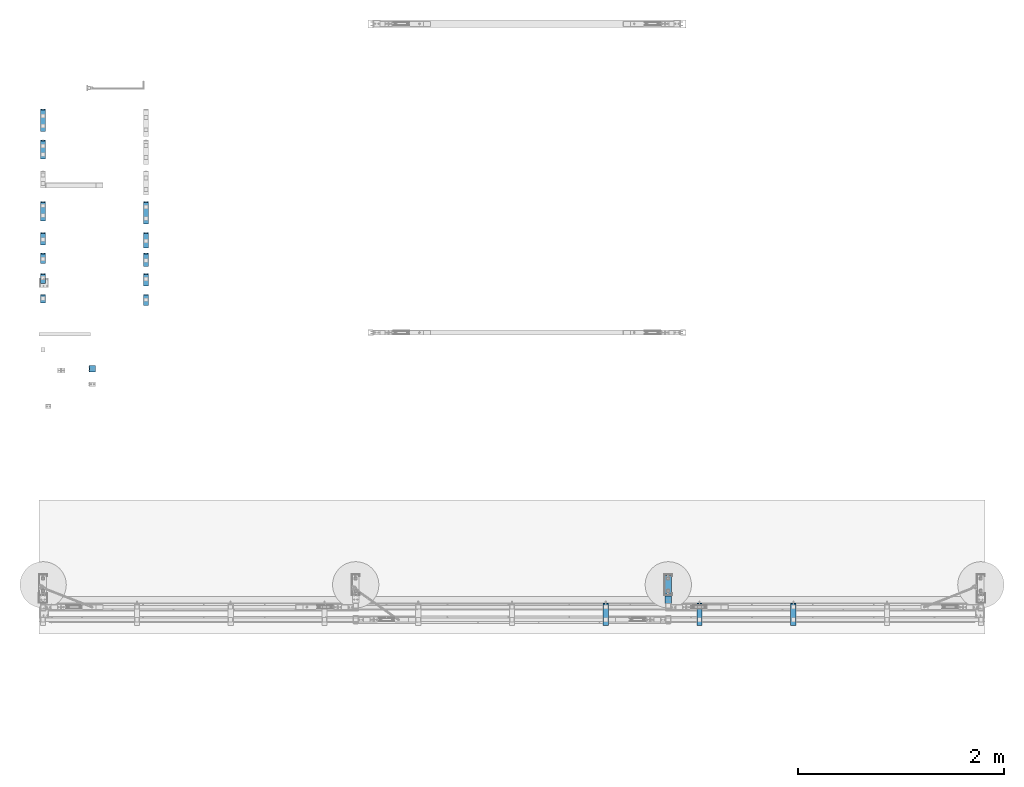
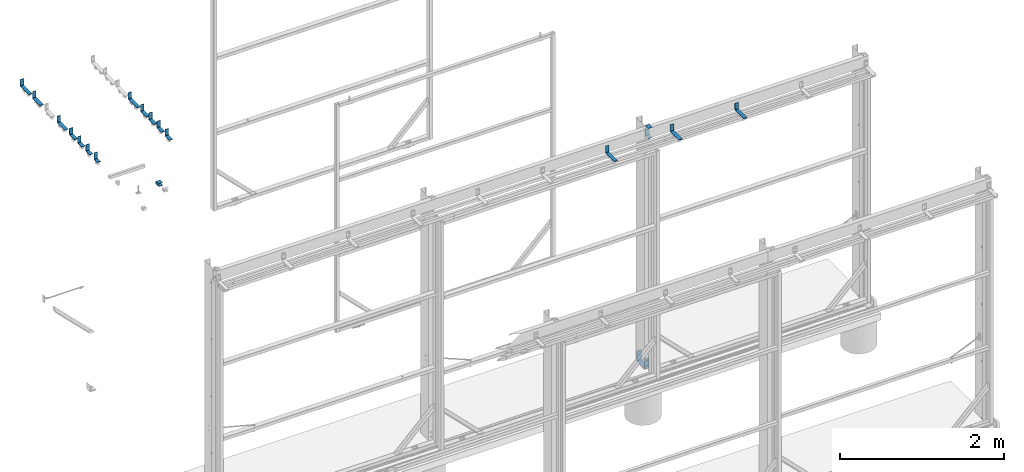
# One storey, part 82 of 91: 18 beams, 18 elements without a shape of their own.
"""IFC2X3 building model written with IfcOpenShell, lengths in millimetres."""

from ifc_helpers import new_model, si_unit, frame, origin_with_axes, place, context, subcontext, project, spatial, faceted_brep, material, type_object, element, aggregate, save


model = new_model("IFC2X3")

# Units and contexts
model_context = context("Model", 3, precision=1e-05, world=origin_with_axes())
body_context = subcontext(model_context, "Body", "Model", "MODEL_VIEW")
ifc_project = project(units=[si_unit("LENGTHUNIT", "METRE", prefix="MILLI"), si_unit("AREAUNIT", "SQUARE_METRE"), si_unit("VOLUMEUNIT", "CUBIC_METRE"), si_unit("MASSUNIT", "GRAM", prefix="KILO"), si_unit("TIMEUNIT", "SECOND"), si_unit("PLANEANGLEUNIT", "RADIAN"), si_unit("SOLIDANGLEUNIT", "STERADIAN"), si_unit("THERMODYNAMICTEMPERATUREUNIT", "DEGREE_CELSIUS"), si_unit("LUMINOUSINTENSITYUNIT", "LUMEN")], contexts=[model_context])

# Site, building, storey
site_placement = place(None, origin_with_axes())
site = spatial("IfcSite", under=ifc_project, at=site_placement, Name="Undefined", CompositionType="ELEMENT")
building_placement = place(site_placement, origin_with_axes())
building = spatial("IfcBuilding", under=site, at=building_placement, Name="Undefined", CompositionType="ELEMENT")
storey_placement = place(building_placement, origin_with_axes())
storey = spatial("IfcBuildingStorey", under=building, at=storey_placement, Name="Undefined", CompositionType="ELEMENT", Elevation=0.0)

# Assembly, beam
assembly_1_placement = place(storey_placement, origin_with_axes())
assembly_1 = element("IfcElementAssembly", 1, at=assembly_1_placement, inside=storey, Name="PLATE", AssemblyPlace="NOTDEFINED", PredefinedType="RIGID_FRAME")
ifc_material_1 = material(Name="STEEL/450")
beam_type_1 = type_object("IfcBeamType", Name="PLT3*65", PredefinedType="NOTDEFINED")
beam_1_placement = place(assembly_1_placement, frame((-116285.88, 90027.61, 3370.5), z_axis=(0.0, -1.0, 0.0), x_axis=(-1.0, 0.0, 0.0)))
beam_1 = element("IfcBeam", 2, at=beam_1_placement, type_object=beam_type_1, material=ifc_material_1, Name="PLATE", ObjectType="PLT3*65", context=body_context, shape_type="Brep", body=[
    faceted_brep([(0.0, 1.5, -32.5), (0.0, 1.5, 32.5), (56.0, 1.5, 32.5), (55.9999999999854, 1.5, -32.5), (0.0, -1.5, 32.5), (0.0, -1.5, -32.5), (56.0, -1.5, -32.5), (56.0, -1.5, 32.5), (59.0000000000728, 2.30384757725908, 32.5), (59.0000000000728, 2.30384757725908, -32.5), (60.5000000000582, -0.294228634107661, -32.5), (60.5000000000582, -0.294228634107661, 32.5), (63.794228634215, 2.99999999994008, -32.5), (63.794228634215, 2.99999999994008, 32.5), (61.1961524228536, 4.49999999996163, 32.5), (61.1961524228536, 4.49999999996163, -32.5), (65.0000000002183, 7.49999999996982, -32.5), (65.0000000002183, 7.49999999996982, 32.5), (62.0000000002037, 7.49999999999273, 32.5), (62.0, 7.5, -32.5), (62.0, 33.5, 32.5), (61.9999999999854, 33.4999999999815, -32.5), (65.0, 33.5, -32.5), (65.0, 33.5, 32.5), (61.1961524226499, 36.4999999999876, 32.5), (61.1961524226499, 36.4999999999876, -32.5), (63.7942286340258, 37.9999999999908, -32.5), (63.7942286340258, 37.9999999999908, 32.5), (60.4999999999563, 41.2942286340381, -32.5), (60.4999999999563, 41.2942286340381, 32.5), (58.9999999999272, 38.6961524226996, 32.5), (58.9999999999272, 38.6961524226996, -32.5), (55.9999999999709, 42.5000000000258, -32.5), (55.9999999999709, 42.5000000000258, 32.5), (55.9999999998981, 39.5000000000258, 32.5), (56.0, 39.5, -32.5), (0.0, 39.5, 32.5), (0.0, 39.5, -32.5), (0.0, 42.5, 32.5), (0.0, 42.5, -32.5)], [[[0, 1, 2, 3]], [[4, 5, 6, 7]], [[5, 4, 1, 0]], [[3, 2, 8, 9]], [[7, 6, 10, 11]], [[10, 12, 13, 11]], [[8, 14, 15, 9]], [[12, 16, 17, 13]], [[14, 18, 19, 15]], [[19, 18, 20, 21]], [[17, 16, 22, 23]], [[21, 20, 24, 25]], [[23, 22, 26, 27]], [[26, 28, 29, 27]], [[24, 30, 31, 25]], [[28, 32, 33, 29]], [[30, 34, 35, 31]], [[35, 34, 36, 37]], [[34, 30, 24, 20, 18, 14, 8, 2, 1, 4, 7, 11, 13, 17, 23, 27, 29, 33, 38, 36]], [[33, 32, 39, 38]], [[32, 28, 26, 22, 16, 12, 10, 6, 5, 0, 3, 9, 15, 19, 21, 25, 31, 35, 37, 39]], [[38, 39, 37, 36]]]),
])
aggregate(assembly_1, [beam_1])

assembly_2_placement = place(storey_placement, origin_with_axes())
assembly_2 = element("IfcElementAssembly", 3, at=assembly_2_placement, inside=storey, Name="SLIDING DOOR BRACKET", AssemblyPlace="NOTDEFINED", PredefinedType="RIGID_FRAME")
ifc_material_2 = material(Name="STEEL/250")
beam_type_2 = type_object("IfcBeamType", Name="FL6*50", PredefinedType="NOTDEFINED")
beam_2_placement = place(assembly_2_placement, frame((-115795.84, 91649.15, 3541.0), z_axis=(1.0, 0.0, 0.0), x_axis=(0.0, 0.0, -1.0)))
beam_2 = element("IfcBeam", 4, at=beam_2_placement, type_object=beam_type_2, material=ifc_material_2, Name="SLIDING DOOR BRACKET", ObjectType="FL6*50", context=body_context, shape_type="Brep", body=[
    faceted_brep([(0.0, 3.0, -25.0), (0.0, 3.0, 25.0), (88.0, 3.0, 25.0), (88.0000000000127, 3.00000000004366, -25.0), (0.0, -3.0, 25.0), (0.0, -3.0, -25.0), (88.0, -3.0, -25.0), (88.0, -3.0, 25.0), (93.9999999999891, 1.39230484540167, 25.0), (93.9999999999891, 1.39230484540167, -25.0), (90.9999999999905, -3.8038475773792, -25.0), (90.9999999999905, -3.8038475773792, 25.0), (93.1961524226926, -6.00000000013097, -25.0), (93.1961524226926, -6.00000000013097, 25.0), (98.3923048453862, -3.00000000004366, 25.0), (98.3923048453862, -3.00000000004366, -25.0), (93.9999999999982, -9.00000000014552, -25.0), (93.9999999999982, -9.00000000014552, 25.0), (100.000000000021, -9.00000000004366, 25.0), (100.0, -9.0, -25.0), (100.0, -215.0, 25.0), (100.0, -215.0, -25.0), (94.0, -215.0, 25.0), (94.0, -215.0, -25.0)], [[[0, 1, 2, 3]], [[4, 5, 6, 7]], [[5, 4, 1, 0]], [[3, 2, 8, 9]], [[7, 6, 10, 11]], [[10, 12, 13, 11]], [[8, 14, 15, 9]], [[12, 16, 17, 13]], [[14, 18, 19, 15]], [[19, 18, 20, 21]], [[18, 14, 8, 2, 1, 4, 7, 11, 13, 17, 22, 20]], [[17, 16, 23, 22]], [[16, 12, 10, 6, 5, 0, 3, 9, 15, 19, 21, 23]], [[22, 23, 21, 20]]]),
])
aggregate(assembly_2, [beam_2])

assembly_3_placement = place(storey_placement, origin_with_axes())
assembly_3 = element("IfcElementAssembly", 5, at=assembly_3_placement, inside=storey, Name="SLIDING DOOR BRACKET", AssemblyPlace="NOTDEFINED", PredefinedType="RIGID_FRAME")
beam_3_placement = place(assembly_3_placement, frame((-115795.84, 91349.15, 3541.0), z_axis=(1.0, 0.0, 0.0), x_axis=(0.0, 0.0, -1.0)))
beam_3 = element("IfcBeam", 6, at=beam_3_placement, type_object=beam_type_2, material=ifc_material_2, Name="SLIDING DOOR BRACKET", ObjectType="FL6*50", context=body_context, shape_type="Brep", body=[
    faceted_brep([(0.0, 3.0, -25.0), (0.0, 3.0, 25.0), (88.0, 3.0, 25.0), (88.0000000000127, 3.00000000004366, -25.0), (0.0, -3.0, 25.0), (0.0, -3.0, -25.0), (88.0, -3.0, -25.0), (88.0, -3.0, 25.0), (93.9999999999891, 1.39230484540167, 25.0), (93.9999999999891, 1.39230484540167, -25.0), (90.9999999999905, -3.8038475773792, -25.0), (90.9999999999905, -3.8038475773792, 25.0), (93.1961524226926, -6.00000000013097, -25.0), (93.1961524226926, -6.00000000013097, 25.0), (98.3923048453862, -3.00000000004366, 25.0), (98.3923048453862, -3.00000000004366, -25.0), (93.9999999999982, -9.00000000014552, -25.0), (93.9999999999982, -9.00000000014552, 25.0), (100.000000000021, -9.00000000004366, 25.0), (100.0, -9.0, -25.0), (100.0, -145.0, 25.0), (100.0, -145.0, -25.0), (94.0, -145.0, 25.0), (94.0, -145.0, -25.0)], [[[0, 1, 2, 3]], [[4, 5, 6, 7]], [[5, 4, 1, 0]], [[3, 2, 8, 9]], [[7, 6, 10, 11]], [[10, 12, 13, 11]], [[8, 14, 15, 9]], [[12, 16, 17, 13]], [[14, 18, 19, 15]], [[19, 18, 20, 21]], [[18, 14, 8, 2, 1, 4, 7, 11, 13, 17, 22, 20]], [[17, 16, 23, 22]], [[16, 12, 10, 6, 5, 0, 3, 9, 15, 19, 21, 23]], [[22, 23, 21, 20]]]),
])
aggregate(assembly_3, [beam_3])

assembly_4_placement = place(storey_placement, origin_with_axes())
assembly_4 = element("IfcElementAssembly", 7, at=assembly_4_placement, inside=storey, Name="SLIDING DOOR BRACKET", AssemblyPlace="NOTDEFINED", PredefinedType="RIGID_FRAME")
beam_4_placement = place(assembly_4_placement, frame((-115795.84, 91149.15, 3541.0), z_axis=(1.0, 0.0, 0.0), x_axis=(0.0, 0.0, -1.0)))
beam_4 = element("IfcBeam", 8, at=beam_4_placement, type_object=beam_type_2, material=ifc_material_2, Name="SLIDING DOOR BRACKET", ObjectType="FL6*50", context=body_context, shape_type="Brep", body=[
    faceted_brep([(0.0, 3.0, -25.0), (0.0, 3.0, 25.0), (88.0, 3.0, 25.0), (88.0000000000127, 3.00000000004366, -25.0), (0.0, -3.0, 25.0), (0.0, -3.0, -25.0), (88.0, -3.0, -25.0), (88.0, -3.0, 25.0), (93.9999999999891, 1.39230484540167, 25.0), (93.9999999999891, 1.39230484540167, -25.0), (90.9999999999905, -3.8038475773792, -25.0), (90.9999999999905, -3.8038475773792, 25.0), (93.1961524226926, -6.00000000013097, -25.0), (93.1961524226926, -6.00000000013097, 25.0), (98.3923048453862, -3.00000000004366, 25.0), (98.3923048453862, -3.00000000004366, -25.0), (93.9999999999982, -9.00000000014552, -25.0), (93.9999999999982, -9.00000000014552, 25.0), (100.000000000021, -9.00000000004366, 25.0), (100.0, -9.0, -25.0), (100.0, -125.0, 25.0), (100.0, -125.0, -25.0), (94.0, -125.0, 25.0), (94.0, -125.0, -25.0)], [[[0, 1, 2, 3]], [[4, 5, 6, 7]], [[5, 4, 1, 0]], [[3, 2, 8, 9]], [[7, 6, 10, 11]], [[10, 12, 13, 11]], [[8, 14, 15, 9]], [[12, 16, 17, 13]], [[14, 18, 19, 15]], [[19, 18, 20, 21]], [[18, 14, 8, 2, 1, 4, 7, 11, 13, 17, 22, 20]], [[17, 16, 23, 22]], [[16, 12, 10, 6, 5, 0, 3, 9, 15, 19, 21, 23]], [[22, 23, 21, 20]]]),
])
aggregate(assembly_4, [beam_4])

assembly_5_placement = place(storey_placement, origin_with_axes())
assembly_5 = element("IfcElementAssembly", 9, at=assembly_5_placement, inside=storey, Name="SLIDING DOOR BRACKET", AssemblyPlace="NOTDEFINED", PredefinedType="RIGID_FRAME")
beam_5_placement = place(assembly_5_placement, frame((-115795.84, 90949.15, 3541.0), z_axis=(1.0, 0.0, 0.0), x_axis=(0.0, 0.0, -1.0)))
beam_5 = element("IfcBeam", 10, at=beam_5_placement, type_object=beam_type_2, material=ifc_material_2, Name="SLIDING DOOR BRACKET", ObjectType="FL6*50", context=body_context, shape_type="Brep", body=[
    faceted_brep([(0.0, 3.0, -25.0), (0.0, 3.0, 25.0), (88.0, 3.0, 25.0), (88.0000000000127, 3.00000000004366, -25.0), (0.0, -3.0, 25.0), (0.0, -3.0, -25.0), (88.0, -3.0, -25.0), (88.0, -3.0, 25.0), (93.9999999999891, 1.39230484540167, 25.0), (93.9999999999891, 1.39230484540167, -25.0), (90.9999999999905, -3.8038475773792, -25.0), (90.9999999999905, -3.8038475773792, 25.0), (93.1961524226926, -6.00000000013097, -25.0), (93.1961524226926, -6.00000000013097, 25.0), (98.3923048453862, -3.00000000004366, 25.0), (98.3923048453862, -3.00000000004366, -25.0), (93.9999999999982, -9.00000000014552, -25.0), (93.9999999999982, -9.00000000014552, 25.0), (100.000000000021, -9.00000000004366, 25.0), (100.0, -9.0, -25.0), (100.0, -116.0, 25.0), (100.0, -116.0, -25.0), (94.0, -116.0, 25.0), (94.0, -116.0, -25.0)], [[[0, 1, 2, 3]], [[4, 5, 6, 7]], [[5, 4, 1, 0]], [[3, 2, 8, 9]], [[7, 6, 10, 11]], [[10, 12, 13, 11]], [[8, 14, 15, 9]], [[12, 16, 17, 13]], [[14, 18, 19, 15]], [[19, 18, 20, 21]], [[18, 14, 8, 2, 1, 4, 7, 11, 13, 17, 22, 20]], [[17, 16, 23, 22]], [[16, 12, 10, 6, 5, 0, 3, 9, 15, 19, 21, 23]], [[22, 23, 21, 20]]]),
])
aggregate(assembly_5, [beam_5])

assembly_6_placement = place(storey_placement, origin_with_axes())
assembly_6 = element("IfcElementAssembly", 11, at=assembly_6_placement, inside=storey, Name="SLIDING DOOR BRACKET", AssemblyPlace="NOTDEFINED", PredefinedType="RIGID_FRAME")
beam_6_placement = place(assembly_6_placement, frame((-115795.84, 90749.15, 3541.0), z_axis=(1.0, 0.0, 0.0), x_axis=(0.0, 0.0, -1.0)))
beam_6 = element("IfcBeam", 12, at=beam_6_placement, type_object=beam_type_2, material=ifc_material_2, Name="SLIDING DOOR BRACKET", ObjectType="FL6*50", context=body_context, shape_type="Brep", body=[
    faceted_brep([(0.0, 3.0, -25.0), (0.0, 3.0, 25.0), (88.0, 3.0, 25.0), (88.0000000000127, 3.00000000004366, -25.0), (0.0, -3.0, 25.0), (0.0, -3.0, -25.0), (88.0, -3.0, -25.0), (88.0, -3.0, 25.0), (93.9999999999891, 1.39230484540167, 25.0), (93.9999999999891, 1.39230484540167, -25.0), (90.9999999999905, -3.8038475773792, -25.0), (90.9999999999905, -3.8038475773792, 25.0), (93.1961524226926, -6.00000000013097, -25.0), (93.1961524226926, -6.00000000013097, 25.0), (98.3923048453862, -3.00000000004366, 25.0), (98.3923048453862, -3.00000000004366, -25.0), (93.9999999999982, -9.00000000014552, -25.0), (93.9999999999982, -9.00000000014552, 25.0), (100.000000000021, -9.00000000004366, 25.0), (100.0, -9.0, -25.0), (100.0, -106.0, 25.0), (100.0, -106.0, -25.0), (94.0, -106.0, 25.0), (94.0, -106.0, -25.0)], [[[0, 1, 2, 3]], [[4, 5, 6, 7]], [[5, 4, 1, 0]], [[3, 2, 8, 9]], [[7, 6, 10, 11]], [[10, 12, 13, 11]], [[8, 14, 15, 9]], [[12, 16, 17, 13]], [[14, 18, 19, 15]], [[19, 18, 20, 21]], [[18, 14, 8, 2, 1, 4, 7, 11, 13, 17, 22, 20]], [[17, 16, 23, 22]], [[16, 12, 10, 6, 5, 0, 3, 9, 15, 19, 21, 23]], [[22, 23, 21, 20]]]),
])
aggregate(assembly_6, [beam_6])

assembly_7_placement = place(storey_placement, origin_with_axes())
assembly_7 = element("IfcElementAssembly", 13, at=assembly_7_placement, inside=storey, Name="SLIDING DOOR BRACKET", AssemblyPlace="NOTDEFINED", PredefinedType="RIGID_FRAME")
beam_7_placement = place(assembly_7_placement, frame((-116795.84, 92549.15, 3541.0), z_axis=(1.0, 0.0, 0.0), x_axis=(0.0, 0.0, -1.0)))
beam_7 = element("IfcBeam", 14, at=beam_7_placement, type_object=beam_type_2, material=ifc_material_2, Name="SLIDING DOOR BRACKET", ObjectType="FL6*50", context=body_context, shape_type="Brep", body=[
    faceted_brep([(0.0, 3.0, -25.0), (0.0, 3.0, 25.0), (88.0, 3.0, 25.0), (88.0000000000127, 3.00000000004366, -25.0), (0.0, -3.0, 25.0), (0.0, -3.0, -25.0), (88.0, -3.0, -25.0), (88.0, -3.0, 25.0), (93.9999999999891, 1.39230484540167, 25.0), (93.9999999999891, 1.39230484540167, -25.0), (90.9999999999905, -3.8038475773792, -25.0), (90.9999999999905, -3.8038475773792, 25.0), (93.1961524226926, -6.00000000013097, -25.0), (93.1961524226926, -6.00000000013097, 25.0), (98.3923048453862, -3.00000000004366, 25.0), (98.3923048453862, -3.00000000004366, -25.0), (93.9999999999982, -9.00000000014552, -25.0), (93.9999999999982, -9.00000000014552, 25.0), (100.000000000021, -9.00000000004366, 25.0), (100.0, -9.0, -25.0), (100.0, -214.0, 25.0), (100.0, -214.0, -25.0), (94.0, -214.0, 25.0), (94.0, -214.0, -25.0)], [[[0, 1, 2, 3]], [[4, 5, 6, 7]], [[5, 4, 1, 0]], [[3, 2, 8, 9]], [[7, 6, 10, 11]], [[10, 12, 13, 11]], [[8, 14, 15, 9]], [[12, 16, 17, 13]], [[14, 18, 19, 15]], [[19, 18, 20, 21]], [[18, 14, 8, 2, 1, 4, 7, 11, 13, 17, 22, 20]], [[17, 16, 23, 22]], [[16, 12, 10, 6, 5, 0, 3, 9, 15, 19, 21, 23]], [[22, 23, 21, 20]]]),
])
aggregate(assembly_7, [beam_7])

assembly_8_placement = place(storey_placement, origin_with_axes())
assembly_8 = element("IfcElementAssembly", 15, at=assembly_8_placement, inside=storey, Name="SLIDING DOOR BRACKET", AssemblyPlace="NOTDEFINED", PredefinedType="RIGID_FRAME")
beam_8_placement = place(assembly_8_placement, frame((-116795.84, 92249.15, 3541.0), z_axis=(1.0, 0.0, 0.0), x_axis=(0.0, 0.0, -1.0)))
beam_8 = element("IfcBeam", 16, at=beam_8_placement, type_object=beam_type_2, material=ifc_material_2, Name="SLIDING DOOR BRACKET", ObjectType="FL6*50", context=body_context, shape_type="Brep", body=[
    faceted_brep([(0.0, 3.0, -25.0), (0.0, 3.0, 25.0), (88.0, 3.0, 25.0), (88.0000000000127, 3.00000000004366, -25.0), (0.0, -3.0, 25.0), (0.0, -3.0, -25.0), (88.0, -3.0, -25.0), (88.0, -3.0, 25.0), (93.9999999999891, 1.39230484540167, 25.0), (93.9999999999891, 1.39230484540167, -25.0), (90.9999999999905, -3.8038475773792, -25.0), (90.9999999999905, -3.8038475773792, 25.0), (93.1961524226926, -6.00000000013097, -25.0), (93.1961524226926, -6.00000000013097, 25.0), (98.3923048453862, -3.00000000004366, 25.0), (98.3923048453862, -3.00000000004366, -25.0), (93.9999999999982, -9.00000000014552, -25.0), (93.9999999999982, -9.00000000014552, 25.0), (100.000000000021, -9.00000000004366, 25.0), (100.0, -9.0, -25.0), (100.0, -184.0, 25.0), (100.0, -184.0, -25.0), (94.0, -184.0, 25.0), (94.0, -184.0, -25.0)], [[[0, 1, 2, 3]], [[4, 5, 6, 7]], [[5, 4, 1, 0]], [[3, 2, 8, 9]], [[7, 6, 10, 11]], [[10, 12, 13, 11]], [[8, 14, 15, 9]], [[12, 16, 17, 13]], [[14, 18, 19, 15]], [[19, 18, 20, 21]], [[18, 14, 8, 2, 1, 4, 7, 11, 13, 17, 22, 20]], [[17, 16, 23, 22]], [[16, 12, 10, 6, 5, 0, 3, 9, 15, 19, 21, 23]], [[22, 23, 21, 20]]]),
])
aggregate(assembly_8, [beam_8])

assembly_9_placement = place(storey_placement, origin_with_axes())
assembly_9 = element("IfcElementAssembly", 17, at=assembly_9_placement, inside=storey, Name="SLIDING DOOR BRACKET", AssemblyPlace="NOTDEFINED", PredefinedType="RIGID_FRAME")
beam_9_placement = place(assembly_9_placement, frame((-116795.84, 91649.15, 3541.0), z_axis=(1.0, 0.0, 0.0), x_axis=(0.0, 0.0, -1.0)))
beam_9 = element("IfcBeam", 18, at=beam_9_placement, type_object=beam_type_2, material=ifc_material_2, Name="SLIDING DOOR BRACKET", ObjectType="FL6*50", context=body_context, shape_type="Brep", body=[
    faceted_brep([(0.0, 3.0, -25.0), (0.0, 3.0, 25.0), (88.0, 3.0, 25.0), (88.0000000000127, 3.00000000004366, -25.0), (0.0, -3.0, 25.0), (0.0, -3.0, -25.0), (88.0, -3.0, -25.0), (88.0, -3.0, 25.0), (93.9999999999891, 1.39230484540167, 25.0), (93.9999999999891, 1.39230484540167, -25.0), (90.9999999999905, -3.8038475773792, -25.0), (90.9999999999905, -3.8038475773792, 25.0), (93.1961524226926, -6.00000000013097, -25.0), (93.1961524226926, -6.00000000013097, 25.0), (98.3923048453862, -3.00000000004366, 25.0), (98.3923048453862, -3.00000000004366, -25.0), (93.9999999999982, -9.00000000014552, -25.0), (93.9999999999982, -9.00000000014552, 25.0), (100.000000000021, -9.00000000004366, 25.0), (100.0, -9.0, -25.0), (100.0, -185.0, 25.0), (100.0, -185.0, -25.0), (94.0, -185.0, 25.0), (94.0, -185.0, -25.0)], [[[0, 1, 2, 3]], [[4, 5, 6, 7]], [[5, 4, 1, 0]], [[3, 2, 8, 9]], [[7, 6, 10, 11]], [[10, 12, 13, 11]], [[8, 14, 15, 9]], [[12, 16, 17, 13]], [[14, 18, 19, 15]], [[19, 18, 20, 21]], [[18, 14, 8, 2, 1, 4, 7, 11, 13, 17, 22, 20]], [[17, 16, 23, 22]], [[16, 12, 10, 6, 5, 0, 3, 9, 15, 19, 21, 23]], [[22, 23, 21, 20]]]),
])
aggregate(assembly_9, [beam_9])

assembly_10_placement = place(storey_placement, origin_with_axes())
assembly_10 = element("IfcElementAssembly", 19, at=assembly_10_placement, inside=storey, Name="SLIDING DOOR BRACKET", AssemblyPlace="NOTDEFINED", PredefinedType="RIGID_FRAME")
beam_10_placement = place(assembly_10_placement, frame((-116795.84, 91349.15, 3541.0), z_axis=(1.0, 0.0, 0.0), x_axis=(0.0, 0.0, -1.0)))
beam_10 = element("IfcBeam", 20, at=beam_10_placement, type_object=beam_type_2, material=ifc_material_2, Name="SLIDING DOOR BRACKET", ObjectType="FL6*50", context=body_context, shape_type="Brep", body=[
    faceted_brep([(0.0, 3.0, -25.0), (0.0, 3.0, 25.0), (88.0, 3.0, 25.0), (88.0000000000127, 3.00000000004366, -25.0), (0.0, -3.0, 25.0), (0.0, -3.0, -25.0), (88.0, -3.0, -25.0), (88.0, -3.0, 25.0), (93.9999999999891, 1.39230484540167, 25.0), (93.9999999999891, 1.39230484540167, -25.0), (90.9999999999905, -3.8038475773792, -25.0), (90.9999999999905, -3.8038475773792, 25.0), (93.1961524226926, -6.00000000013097, -25.0), (93.1961524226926, -6.00000000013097, 25.0), (98.3923048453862, -3.00000000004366, 25.0), (98.3923048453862, -3.00000000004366, -25.0), (93.9999999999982, -9.00000000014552, -25.0), (93.9999999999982, -9.00000000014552, 25.0), (100.000000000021, -9.00000000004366, 25.0), (100.0, -9.0, -25.0), (100.0, -120.0, 25.0), (100.0, -120.0, -25.0), (94.0, -120.0, 25.0), (94.0, -120.0, -25.0)], [[[0, 1, 2, 3]], [[4, 5, 6, 7]], [[5, 4, 1, 0]], [[3, 2, 8, 9]], [[7, 6, 10, 11]], [[10, 12, 13, 11]], [[8, 14, 15, 9]], [[12, 16, 17, 13]], [[14, 18, 19, 15]], [[19, 18, 20, 21]], [[18, 14, 8, 2, 1, 4, 7, 11, 13, 17, 22, 20]], [[17, 16, 23, 22]], [[16, 12, 10, 6, 5, 0, 3, 9, 15, 19, 21, 23]], [[22, 23, 21, 20]]]),
])
aggregate(assembly_10, [beam_10])

assembly_11_placement = place(storey_placement, origin_with_axes())
assembly_11 = element("IfcElementAssembly", 21, at=assembly_11_placement, inside=storey, Name="SLIDING DOOR BRACKET", AssemblyPlace="NOTDEFINED", PredefinedType="RIGID_FRAME")
beam_11_placement = place(assembly_11_placement, frame((-116795.84, 91149.15, 3541.0), z_axis=(1.0, 0.0, 0.0), x_axis=(0.0, 0.0, -1.0)))
beam_11 = element("IfcBeam", 22, at=beam_11_placement, type_object=beam_type_2, material=ifc_material_2, Name="SLIDING DOOR BRACKET", ObjectType="FL6*50", context=body_context, shape_type="Brep", body=[
    faceted_brep([(0.0, 3.0, -25.0), (0.0, 3.0, 25.0), (88.0, 3.0, 25.0), (88.0000000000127, 3.00000000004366, -25.0), (0.0, -3.0, 25.0), (0.0, -3.0, -25.0), (88.0, -3.0, -25.0), (88.0, -3.0, 25.0), (93.9999999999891, 1.39230484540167, 25.0), (93.9999999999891, 1.39230484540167, -25.0), (90.9999999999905, -3.8038475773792, -25.0), (90.9999999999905, -3.8038475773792, 25.0), (93.1961524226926, -6.00000000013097, -25.0), (93.1961524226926, -6.00000000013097, 25.0), (98.3923048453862, -3.00000000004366, 25.0), (98.3923048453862, -3.00000000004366, -25.0), (93.9999999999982, -9.00000000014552, -25.0), (93.9999999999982, -9.00000000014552, 25.0), (100.000000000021, -9.00000000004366, 25.0), (100.0, -9.0, -25.0), (100.0, -100.0, 25.0), (100.0, -100.0, -25.0), (94.0, -100.0, 25.0), (94.0, -100.0, -25.0)], [[[0, 1, 2, 3]], [[4, 5, 6, 7]], [[5, 4, 1, 0]], [[3, 2, 8, 9]], [[7, 6, 10, 11]], [[10, 12, 13, 11]], [[8, 14, 15, 9]], [[12, 16, 17, 13]], [[14, 18, 19, 15]], [[19, 18, 20, 21]], [[18, 14, 8, 2, 1, 4, 7, 11, 13, 17, 22, 20]], [[17, 16, 23, 22]], [[16, 12, 10, 6, 5, 0, 3, 9, 15, 19, 21, 23]], [[22, 23, 21, 20]]]),
])
aggregate(assembly_11, [beam_11])

assembly_12_placement = place(storey_placement, origin_with_axes())
assembly_12 = element("IfcElementAssembly", 23, at=assembly_12_placement, inside=storey, Name="SLIDING DOOR BRACKET", AssemblyPlace="NOTDEFINED", PredefinedType="RIGID_FRAME")
beam_12_placement = place(assembly_12_placement, frame((-116795.84, 90949.15, 3541.0), z_axis=(1.0, 0.0, 0.0), x_axis=(0.0, 0.0, -1.0)))
beam_12 = element("IfcBeam", 24, at=beam_12_placement, type_object=beam_type_2, material=ifc_material_2, Name="SLIDING DOOR BRACKET", ObjectType="FL6*50", context=body_context, shape_type="Brep", body=[
    faceted_brep([(0.0, 3.0, -25.0), (0.0, 3.0, 25.0), (88.0, 3.0, 25.0), (88.0000000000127, 3.00000000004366, -25.0), (0.0, -3.0, 25.0), (0.0, -3.0, -25.0), (88.0, -3.0, -25.0), (88.0, -3.0, 25.0), (93.9999999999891, 1.39230484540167, 25.0), (93.9999999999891, 1.39230484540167, -25.0), (90.9999999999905, -3.8038475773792, -25.0), (90.9999999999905, -3.8038475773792, 25.0), (93.1961524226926, -6.00000000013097, -25.0), (93.1961524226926, -6.00000000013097, 25.0), (98.3923048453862, -3.00000000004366, 25.0), (98.3923048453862, -3.00000000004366, -25.0), (93.9999999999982, -9.00000000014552, -25.0), (93.9999999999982, -9.00000000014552, 25.0), (100.000000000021, -9.00000000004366, 25.0), (100.0, -9.0, -25.0), (100.0, -91.0, 25.0), (100.0, -91.0, -25.0), (94.0, -91.0, 25.0), (94.0, -91.0, -25.0)], [[[0, 1, 2, 3]], [[4, 5, 6, 7]], [[5, 4, 1, 0]], [[3, 2, 8, 9]], [[7, 6, 10, 11]], [[10, 12, 13, 11]], [[8, 14, 15, 9]], [[12, 16, 17, 13]], [[14, 18, 19, 15]], [[19, 18, 20, 21]], [[18, 14, 8, 2, 1, 4, 7, 11, 13, 17, 22, 20]], [[17, 16, 23, 22]], [[16, 12, 10, 6, 5, 0, 3, 9, 15, 19, 21, 23]], [[22, 23, 21, 20]]]),
])
aggregate(assembly_12, [beam_12])

assembly_13_placement = place(storey_placement, origin_with_axes())
assembly_13 = element("IfcElementAssembly", 25, at=assembly_13_placement, inside=storey, Name="SLIDING DOOR BRACKET", AssemblyPlace="NOTDEFINED", PredefinedType="RIGID_FRAME")
beam_13_placement = place(assembly_13_placement, frame((-116795.84, 90749.15, 3541.0), z_axis=(1.0, 0.0, 0.0), x_axis=(0.0, 0.0, -1.0)))
beam_13 = element("IfcBeam", 26, at=beam_13_placement, type_object=beam_type_2, material=ifc_material_2, Name="SLIDING DOOR BRACKET", ObjectType="FL6*50", context=body_context, shape_type="Brep", body=[
    faceted_brep([(0.0, 3.0, -25.0), (0.0, 3.0, 25.0), (88.0, 3.0, 25.0), (88.0000000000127, 3.00000000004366, -25.0), (0.0, -3.0, 25.0), (0.0, -3.0, -25.0), (88.0, -3.0, -25.0), (88.0, -3.0, 25.0), (93.9999999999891, 1.39230484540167, 25.0), (93.9999999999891, 1.39230484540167, -25.0), (90.9999999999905, -3.8038475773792, -25.0), (90.9999999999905, -3.8038475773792, 25.0), (93.1961524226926, -6.00000000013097, -25.0), (93.1961524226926, -6.00000000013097, 25.0), (98.3923048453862, -3.00000000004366, 25.0), (98.3923048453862, -3.00000000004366, -25.0), (93.9999999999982, -9.00000000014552, -25.0), (93.9999999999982, -9.00000000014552, 25.0), (100.000000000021, -9.00000000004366, 25.0), (100.0, -9.0, -25.0), (100.0, -81.0, 25.0), (100.0, -81.0, -25.0), (94.0, -81.0, 25.0), (94.0, -81.0, -25.0)], [[[0, 1, 2, 3]], [[4, 5, 6, 7]], [[5, 4, 1, 0]], [[3, 2, 8, 9]], [[7, 6, 10, 11]], [[10, 12, 13, 11]], [[8, 14, 15, 9]], [[12, 16, 17, 13]], [[14, 18, 19, 15]], [[19, 18, 20, 21]], [[18, 14, 8, 2, 1, 4, 7, 11, 13, 17, 22, 20]], [[17, 16, 23, 22]], [[16, 12, 10, 6, 5, 0, 3, 9, 15, 19, 21, 23]], [[22, 23, 21, 20]]]),
])
aggregate(assembly_13, [beam_13])

assembly_14_placement = place(storey_placement, origin_with_axes())
assembly_14 = element("IfcElementAssembly", 27, at=assembly_14_placement, inside=storey, Name="DOOR BRACKET", AssemblyPlace="NOTDEFINED", PredefinedType="RIGID_FRAME")
beam_14_placement = place(assembly_14_placement, frame((-109505.84, 87749.15, 3544.0), z_axis=(1.0, 0.0, 0.0), x_axis=(0.0, 0.0, -1.0)))
beam_14 = element("IfcBeam", 28, at=beam_14_placement, type_object=beam_type_2, material=ifc_material_2, Name="DOOR BRACKET", ObjectType="FL6*50", context=body_context, shape_type="Brep", body=[
    faceted_brep([(0.0, 3.0, -25.0), (0.0, 3.0, 25.0), (88.0, 3.0, 25.0), (88.0000000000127, 3.00000000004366, -25.0), (0.0, -3.0, 25.0), (0.0, -3.0, -25.0), (88.0, -3.0, -25.0), (88.0, -3.0, 25.0), (93.9999999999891, 1.39230484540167, 25.0), (93.9999999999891, 1.39230484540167, -25.0), (90.9999999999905, -3.8038475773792, -25.0), (90.9999999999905, -3.8038475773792, 25.0), (93.1961524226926, -6.00000000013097, -25.0), (93.1961524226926, -6.00000000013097, 25.0), (98.3923048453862, -3.00000000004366, 25.0), (98.3923048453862, -3.00000000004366, -25.0), (93.9999999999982, -9.00000000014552, -25.0), (93.9999999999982, -9.00000000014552, 25.0), (100.000000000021, -9.00000000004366, 25.0), (100.0, -9.0, -25.0), (100.0, -215.0, 25.0), (100.0, -215.0, -25.0), (94.0, -215.0, 25.0), (94.0, -215.0, -25.0)], [[[0, 1, 2, 3]], [[4, 5, 6, 7]], [[5, 4, 1, 0]], [[3, 2, 8, 9]], [[7, 6, 10, 11]], [[10, 12, 13, 11]], [[8, 14, 15, 9]], [[12, 16, 17, 13]], [[14, 18, 19, 15]], [[19, 18, 20, 21]], [[18, 14, 8, 2, 1, 4, 7, 11, 13, 17, 22, 20]], [[17, 16, 23, 22]], [[16, 12, 10, 6, 5, 0, 3, 9, 15, 19, 21, 23]], [[22, 23, 21, 20]]]),
])
aggregate(assembly_14, [beam_14])

assembly_15_placement = place(storey_placement, origin_with_axes())
assembly_15 = element("IfcElementAssembly", 29, at=assembly_15_placement, inside=storey, Name="DOOR BRACKET", AssemblyPlace="NOTDEFINED", PredefinedType="RIGID_FRAME")
beam_15_placement = place(assembly_15_placement, frame((-110417.09, 87749.15, 3544.0), z_axis=(1.0, 0.0, 0.0), x_axis=(0.0, 0.0, -1.0)))
beam_15 = element("IfcBeam", 30, at=beam_15_placement, type_object=beam_type_2, material=ifc_material_2, Name="DOOR BRACKET", ObjectType="FL6*50", context=body_context, shape_type="Brep", body=[
    faceted_brep([(0.0, 3.0, -25.0), (0.0, 3.0, 25.0), (88.0, 3.0, 25.0), (88.0000000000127, 3.00000000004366, -25.0), (0.0, -3.0, 25.0), (0.0, -3.0, -25.0), (88.0, -3.0, -25.0), (88.0, -3.0, 25.0), (93.9999999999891, 1.39230484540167, 25.0), (93.9999999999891, 1.39230484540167, -25.0), (90.9999999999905, -3.8038475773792, -25.0), (90.9999999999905, -3.8038475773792, 25.0), (93.1961524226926, -6.00000000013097, -25.0), (93.1961524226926, -6.00000000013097, 25.0), (98.3923048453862, -3.00000000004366, 25.0), (98.3923048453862, -3.00000000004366, -25.0), (93.9999999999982, -9.00000000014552, -25.0), (93.9999999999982, -9.00000000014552, 25.0), (100.000000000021, -9.00000000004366, 25.0), (100.0, -9.0, -25.0), (100.0, -215.0, 25.0), (100.0, -215.0, -25.0), (94.0, -215.0, 25.0), (94.0, -215.0, -25.0)], [[[0, 1, 2, 3]], [[4, 5, 6, 7]], [[5, 4, 1, 0]], [[3, 2, 8, 9]], [[7, 6, 10, 11]], [[10, 12, 13, 11]], [[8, 14, 15, 9]], [[12, 16, 17, 13]], [[14, 18, 19, 15]], [[19, 18, 20, 21]], [[18, 14, 8, 2, 1, 4, 7, 11, 13, 17, 22, 20]], [[17, 16, 23, 22]], [[16, 12, 10, 6, 5, 0, 3, 9, 15, 19, 21, 23]], [[22, 23, 21, 20]]]),
])
aggregate(assembly_15, [beam_15])

assembly_16_placement = place(storey_placement, origin_with_axes())
assembly_16 = element("IfcElementAssembly", 31, at=assembly_16_placement, inside=storey, Name="DOOR BRACKET", AssemblyPlace="NOTDEFINED", PredefinedType="RIGID_FRAME")
beam_16_placement = place(assembly_16_placement, frame((-111328.34, 87749.15, 3544.0), z_axis=(1.0, 0.0, 0.0), x_axis=(0.0, 0.0, -1.0)))
beam_16 = element("IfcBeam", 32, at=beam_16_placement, type_object=beam_type_2, material=ifc_material_2, Name="DOOR BRACKET", ObjectType="FL6*50", context=body_context, shape_type="Brep", body=[
    faceted_brep([(0.0, 3.0, -25.0), (0.0, 3.0, 25.0), (88.0, 3.0, 25.0), (88.0000000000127, 3.00000000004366, -25.0), (0.0, -3.0, 25.0), (0.0, -3.0, -25.0), (88.0, -3.0, -25.0), (88.0, -3.0, 25.0), (93.9999999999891, 1.39230484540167, 25.0), (93.9999999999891, 1.39230484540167, -25.0), (90.9999999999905, -3.8038475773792, -25.0), (90.9999999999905, -3.8038475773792, 25.0), (93.1961524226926, -6.00000000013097, -25.0), (93.1961524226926, -6.00000000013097, 25.0), (98.3923048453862, -3.00000000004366, 25.0), (98.3923048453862, -3.00000000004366, -25.0), (93.9999999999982, -9.00000000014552, -25.0), (93.9999999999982, -9.00000000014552, 25.0), (100.000000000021, -9.00000000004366, 25.0), (100.0, -9.0, -25.0), (100.0, -215.0, 25.0), (100.0, -215.0, -25.0), (94.0, -215.0, 25.0), (94.0, -215.0, -25.0)], [[[0, 1, 2, 3]], [[4, 5, 6, 7]], [[5, 4, 1, 0]], [[3, 2, 8, 9]], [[7, 6, 10, 11]], [[10, 12, 13, 11]], [[8, 14, 15, 9]], [[12, 16, 17, 13]], [[14, 18, 19, 15]], [[19, 18, 20, 21]], [[18, 14, 8, 2, 1, 4, 7, 11, 13, 17, 22, 20]], [[17, 16, 23, 22]], [[16, 12, 10, 6, 5, 0, 3, 9, 15, 19, 21, 23]], [[22, 23, 21, 20]]]),
])
aggregate(assembly_16, [beam_16])

assembly_17_placement = place(storey_placement, origin_with_axes())
assembly_17 = element("IfcElementAssembly", 33, at=assembly_17_placement, inside=storey, Name="BASEPLATE", AssemblyPlace="NOTDEFINED", PredefinedType="RIGID_FRAME")
beam_type_3 = type_object("IfcBeamType", Name="PLT6*61", PredefinedType="NOTDEFINED")
beam_17_placement = place(assembly_17_placement, frame((-110720.84, 87831.55, 122.999999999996), z_axis=(1.0, 0.0, 0.0), x_axis=(0.0, 0.0, -1.0)))
beam_17 = element("IfcBeam", 34, at=beam_17_placement, type_object=beam_type_3, material=ifc_material_1, Name="BASEPLATE", ObjectType="PLT6*61", context=body_context, shape_type="Brep", body=[
    faceted_brep([(0.0, 3.0, -30.5), (0.0, 3.0, 30.5), (144.0, 3.0, 30.5), (143.999999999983, 3.00000000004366, -30.5), (0.0, -3.0, 30.5), (0.0, -3.0, -30.5), (144.0, -3.0, -30.5), (144.0, -3.0, 30.5), (146.500000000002, 3.66987298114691, 30.5), (146.500000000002, 3.66987298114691, -30.5), (149.500000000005, -1.52627944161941, -30.5), (149.500000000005, -1.52627944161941, 30.5), (153.526279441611, 2.50000000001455, -30.5), (153.526279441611, 2.50000000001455, 30.5), (148.330127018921, 5.50000000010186, 30.5), (148.330127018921, 5.50000000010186, -30.5), (155.000000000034, 8.00000000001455, -30.5), (155.000000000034, 8.00000000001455, 30.5), (149.000000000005, 8.00000000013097, 30.5), (149.0, 8.0, -30.5), (149.0, 186.200012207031, 30.5), (148.999999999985, 186.200012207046, -30.5), (155.0, 186.200012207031, -30.5), (155.0, 186.200012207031, 30.5), (148.330127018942, 188.700012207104, 30.5), (148.330127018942, 188.700012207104, -30.5), (153.526279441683, 191.700012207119, -30.5), (153.526279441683, 191.700012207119, 30.5), (149.500000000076, 195.726291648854, -30.5), (149.500000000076, 195.726291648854, 30.5), (146.500000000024, 190.530139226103, 30.5), (146.500000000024, 190.530139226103, -30.5), (144.000000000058, 197.200012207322, -30.5), (144.000000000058, 197.200012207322, 30.5), (143.999999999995, 191.20001220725, 30.5), (144.0, 191.200012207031, -30.5), (0.0, 191.200012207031, 30.5), (0.0, 191.200012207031, -30.5), (0.0, 197.200012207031, 30.5), (0.0, 197.200012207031, -30.5)], [[[0, 1, 2, 3]], [[4, 5, 6, 7]], [[5, 4, 1, 0]], [[3, 2, 8, 9]], [[7, 6, 10, 11]], [[10, 12, 13, 11]], [[8, 14, 15, 9]], [[12, 16, 17, 13]], [[14, 18, 19, 15]], [[19, 18, 20, 21]], [[17, 16, 22, 23]], [[21, 20, 24, 25]], [[23, 22, 26, 27]], [[26, 28, 29, 27]], [[24, 30, 31, 25]], [[28, 32, 33, 29]], [[30, 34, 35, 31]], [[35, 34, 36, 37]], [[34, 30, 24, 20, 18, 14, 8, 2, 1, 4, 7, 11, 13, 17, 23, 27, 29, 33, 38, 36]], [[33, 32, 39, 38]], [[32, 28, 26, 22, 16, 12, 10, 6, 5, 0, 3, 9, 15, 19, 21, 25, 31, 35, 37, 39]], [[38, 39, 37, 36]]]),
])
aggregate(assembly_17, [beam_17])

assembly_18_placement = place(storey_placement, origin_with_axes())
assembly_18 = element("IfcElementAssembly", 35, at=assembly_18_placement, inside=storey, Name="FASCIA BRACKET", AssemblyPlace="NOTDEFINED", PredefinedType="RIGID_FRAME")
beam_type_4 = type_object("IfcBeamType", Name="PLT1.6*60", PredefinedType="NOTDEFINED")
beam_18_placement = place(assembly_18_placement, frame((-110720.839999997, 87749.144456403, 3597.81838258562), z_axis=(-1.0, 0.0, 0.0), x_axis=(0.0, 1.0, 0.0)))
beam_18 = element("IfcBeam", 36, at=beam_18_placement, type_object=beam_type_4, material=ifc_material_2, Name="FASCIA BRACKET", ObjectType="PLT1.6*60", context=body_context, shape_type="Brep", body=[
    faceted_brep([(0.0, 0.800000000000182, -30.0), (0.0, 0.800000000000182, 30.0), (70.0, 0.800000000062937, 30.0), (70.0, 0.800000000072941, -30.0), (0.0, -0.800000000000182, 30.0), (0.0, -0.800000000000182, -30.0), (70.0, -0.799999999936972, -30.0), (70.0, -0.799999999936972, 30.0), (71.6999999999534, 1.25551362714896, 30.0), (71.6999999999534, 1.25551362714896, -30.0), (72.4999999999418, -0.130127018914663, -30.0), (72.4999999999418, -0.130127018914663, 30.0), (74.3301270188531, 1.69999999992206, -30.0), (74.3301270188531, 1.69999999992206, 30.0), (72.9444863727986, 2.4999999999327, 30.0), (72.9444863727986, 2.4999999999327, -30.0), (74.9999999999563, 4.19999999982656, -30.0), (74.9999999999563, 4.19999999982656, 30.0), (73.399999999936, 4.1999999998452, 30.0), (73.3999999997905, 4.19999999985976, -30.0), (73.3999999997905, 151.399996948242, 30.0), (73.3999999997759, 151.399996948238, -30.0), (74.9999999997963, 151.399996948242, -30.0), (74.9999999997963, 151.399996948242, 30.0), (72.9444863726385, 153.099996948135, 30.0), (72.9444863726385, 153.099996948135, -30.0), (74.3301270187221, 153.89999694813, -30.0), (74.3301270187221, 153.89999694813, 30.0), (72.499999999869, 155.73012396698, -30.0), (72.499999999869, 155.73012396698, 30.0), (71.699999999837, 154.344483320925, 30.0), (71.699999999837, 154.344483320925, -30.0), (69.9999999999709, 156.399996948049, -30.0), (69.9999999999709, 156.399996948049, 30.0), (69.9999999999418, 154.799996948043, 30.0), (70.0, 154.799996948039, -30.0), (4.36557456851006e-10, 154.799996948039, 30.0), (4.36557456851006e-10, 154.799996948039, -30.0), (4.36557456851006e-10, 156.399996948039, 30.0), (4.36557456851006e-10, 156.399996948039, -30.0)], [[[0, 1, 2, 3]], [[4, 5, 6, 7]], [[5, 4, 1, 0]], [[3, 2, 8, 9]], [[7, 6, 10, 11]], [[10, 12, 13, 11]], [[8, 14, 15, 9]], [[12, 16, 17, 13]], [[14, 18, 19, 15]], [[19, 18, 20, 21]], [[17, 16, 22, 23]], [[21, 20, 24, 25]], [[23, 22, 26, 27]], [[26, 28, 29, 27]], [[24, 30, 31, 25]], [[28, 32, 33, 29]], [[30, 34, 35, 31]], [[35, 34, 36, 37]], [[34, 30, 24, 20, 18, 14, 8, 2, 1, 4, 7, 11, 13, 17, 23, 27, 29, 33, 38, 36]], [[33, 32, 39, 38]], [[32, 28, 26, 22, 16, 12, 10, 6, 5, 0, 3, 9, 15, 19, 21, 25, 31, 35, 37, 39]], [[38, 39, 37, 36]]]),
])
aggregate(assembly_18, [beam_18])

save(model, "model.ifc")
